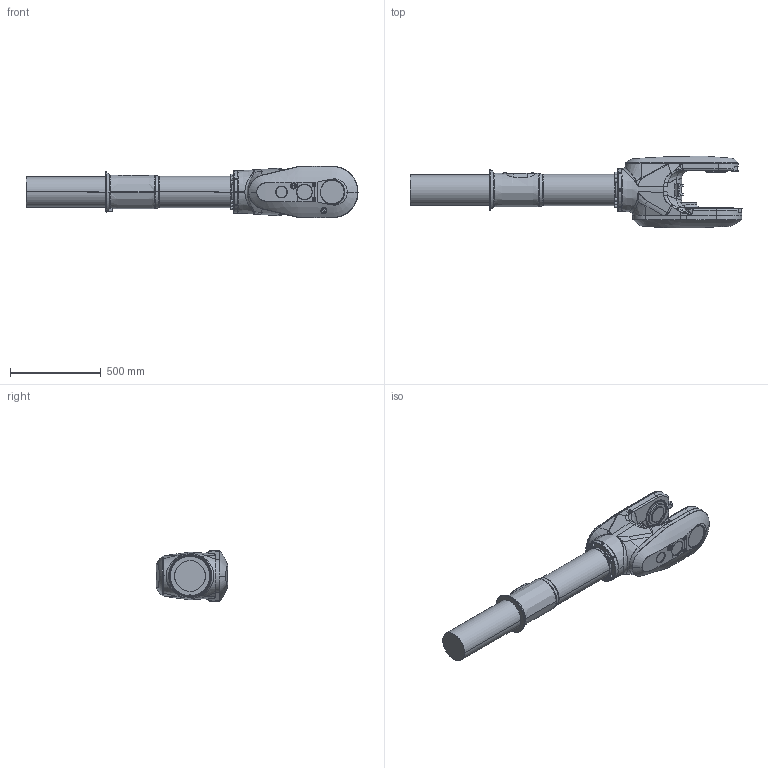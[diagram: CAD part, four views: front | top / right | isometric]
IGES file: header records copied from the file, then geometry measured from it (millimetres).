
Start section: SolidWorks IGES file using analytic representation for surfaces
Global section: file name: C:\DATA\SAP_DOC\LW\IRB 6720\IRB6720-LID-SW_150kg-310_OC_01_SW_J\export\IRB6720-LID-SW_150kg-310_OC_01_IGES_J\IRB6720-LID_150kg-310_OC_00_LINK04_CAD.igs; native system: SolidWorks 2024; preprocessor: SolidWorks 2024; author: SEJOVAS3; date: 260526.095559; units: millimetre
Bounding box: 1830.5 x 396.47 x 284 mm (x, y, z)
Surface area: 1572257.8 mm2 (no closed solid volume)
Topology: 0 solids, 0 shells, 727 faces, 13197 edges, 13172 vertices
Faces by surface type: bspline 432, revolution 295
